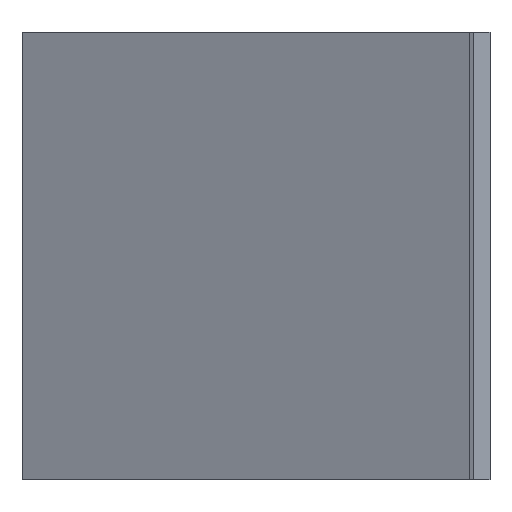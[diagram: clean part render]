
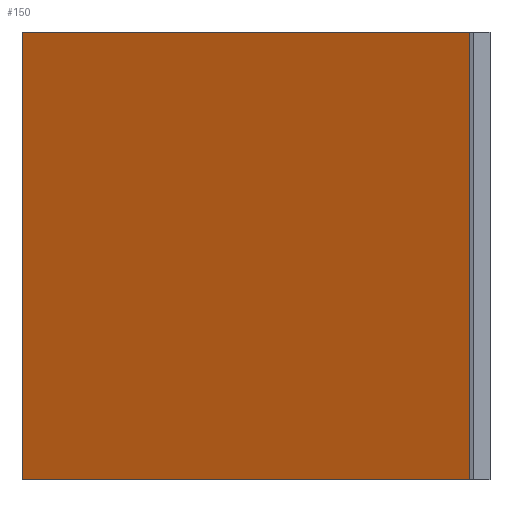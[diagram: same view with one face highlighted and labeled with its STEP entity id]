
A CAD part, left-side view. The second image highlights one B-rep face of the part: STEP entity #150.
In plain terms, the highlighted planar face has unit normal (0.906, -0.424, 0).
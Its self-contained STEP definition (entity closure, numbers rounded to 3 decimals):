
#98=CARTESIAN_POINT('Vertex',(20.,0.,0.)) ;
#101=CARTESIAN_POINT('Line Origine',(20.,0.,54.5)) ;
#105=CARTESIAN_POINT('Vertex',(20.,0.,109.)) ;
#120=CARTESIAN_POINT('Axis2P3D Location',(20.,0.,0.)) ;
#125=CARTESIAN_POINT('Line Origine',(45.5,54.5,0.)) ;
#129=CARTESIAN_POINT('Vertex',(71.,109.,0.)) ;
#132=CARTESIAN_POINT('Line Origine',(71.,109.,54.5)) ;
#136=CARTESIAN_POINT('Vertex',(71.,109.,109.)) ;
#139=CARTESIAN_POINT('Line Origine',(45.5,54.5,109.)) ;
#102=DIRECTION('Vector Direction',(0.,0.,1.)) ;
#121=DIRECTION('Axis2P3D Direction',(0.906,-0.424,0.)) ;
#122=DIRECTION('Axis2P3D XDirection',(0.424,0.906,0.)) ;
#126=DIRECTION('Vector Direction',(0.424,0.906,0.)) ;
#133=DIRECTION('Vector Direction',(0.,0.,1.)) ;
#140=DIRECTION('Vector Direction',(0.424,0.906,0.)) ;
#123=AXIS2_PLACEMENT_3D('Plane Axis2P3D',#120,#121,#122) ;
#145=ORIENTED_EDGE('',*,*,#107,.F.) ;
#146=ORIENTED_EDGE('',*,*,#131,.T.) ;
#147=ORIENTED_EDGE('',*,*,#138,.T.) ;
#148=ORIENTED_EDGE('',*,*,#143,.F.) ;
#103=VECTOR('Line Direction',#102,1.) ;
#127=VECTOR('Line Direction',#126,1.) ;
#134=VECTOR('Line Direction',#133,1.) ;
#141=VECTOR('Line Direction',#140,1.) ;
#150=ADVANCED_FACE('Extrude.1',(#149),#124,.T.) ;
#107=EDGE_CURVE('',#99,#106,#104,.T.) ;
#131=EDGE_CURVE('',#99,#130,#128,.T.) ;
#138=EDGE_CURVE('',#130,#137,#135,.T.) ;
#143=EDGE_CURVE('',#106,#137,#142,.T.) ;
#144=EDGE_LOOP('',(#145,#146,#147,#148)) ;
#149=FACE_OUTER_BOUND('',#144,.T.) ;
#104=LINE('Line',#101,#103) ;
#128=LINE('Line',#125,#127) ;
#135=LINE('Line',#132,#134) ;
#142=LINE('Line',#139,#141) ;
#124=PLANE('',#123) ;
#99=VERTEX_POINT('',#98) ;
#106=VERTEX_POINT('',#105) ;
#130=VERTEX_POINT('',#129) ;
#137=VERTEX_POINT('',#136) ;
